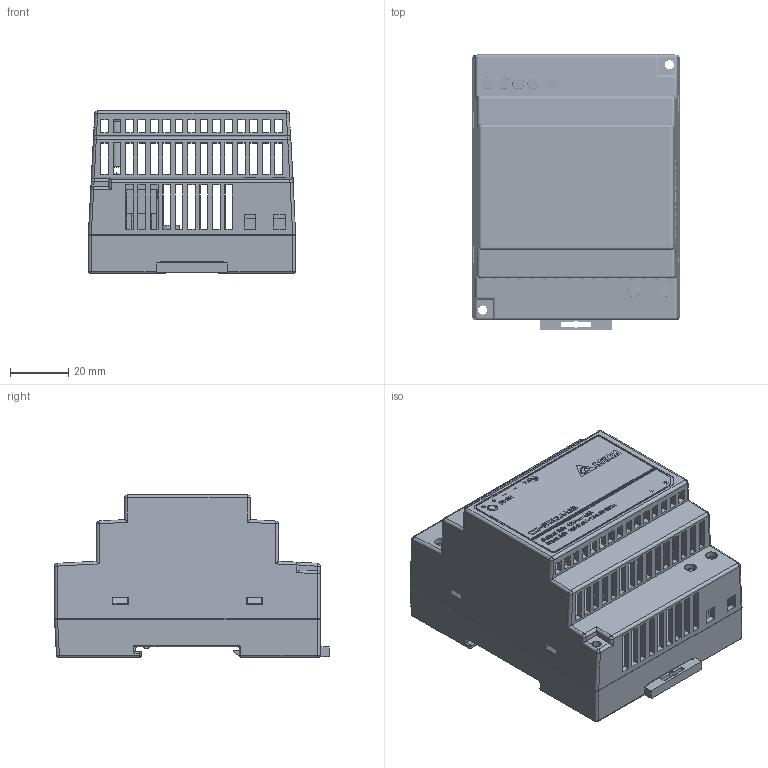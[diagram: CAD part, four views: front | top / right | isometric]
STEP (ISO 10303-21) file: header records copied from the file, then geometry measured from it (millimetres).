
FILE_DESCRIPTION((''),'2;1');
FILE_NAME('DRC-12V60W1AZ_ASM','2013-11-05T',('Anothai'),(''),'PRO/ENGINEER BY PARAMETRIC TECHNOLOGY CORPORATION, 2010180','PRO/ENGINEER BY PARAMETRIC TECHNOLOGY CORPORATION, 2010180','');
FILE_SCHEMA(('CONFIG_CONTROL_DESIGN','SHAPE_APPEARANCE_LAYERS_GROUPS'));
Products named in the file (24): 3306254900; 3306254500; 3306254500_LENS_; ASSY_CASE_ASM; 3268458570; 3471801700; 2943003701; 3123325900; 2300155331_LED; 307345207W_MB420U103; 307345207W_MB420P201; 307345207W_MB420-508MA03; 307345207W_ASSEM1_ASM; 307345207W_ASM; 307301297W_MB420-508MA02; 307301297W_PRT0001; 307301297W_PRT0002; 307301297W_ASM0001_ASM; 307301297W_ASM; EE_VR550; ASSY_PWB_ASM; 3109014601; 3268428500; DRC-12V60W1AZ_ASM
Assembly tree (29 placements, depth 5):
  DRC-12V60W1AZ_ASM
    ASSY_CASE_ASM
      3306254900
      3306254500
      3306254500_LENS_
    3268458570
    3471801700
    ASSY_PWB_ASM
      2943003701
      3123325900
      2300155331_LED
      307345207W_ASM
        307345207W_ASSEM1_ASM
          307345207W_MB420U103  x2
          307345207W_MB420P201  x2
          307345207W_MB420-508MA03
      307301297W_ASM
        307301297W_ASM0001_ASM  x2
          307301297W_MB420-508MA02
          307301297W_PRT0001
          307301297W_PRT0002
      EE_VR550
    3109014601  x2
    3268428500
Bounding box: 71 x 94.17 x 55.6 mm (x, y, z)
Volume: 69898.8 mm3; surface area: 84828.5 mm2
Topology: 27 solids, 33 shells, 4588 faces, 12424 edges, 8106 vertices
Faces by surface type: plane 2942, extrusion 741, cylinder 702, torus 55, bspline 51, sphere 49, cone 48
Entity records: 144599 total; most frequent: CARTESIAN_POINT 38438, ORIENTED_EDGE 19446, DIRECTION 15592, EDGE_CURVE 9723, VECTOR 7716, LINE 7110, VERTEX_POINT 6400, PRESENTATION_STYLE_ASSIGNMENT 5429
